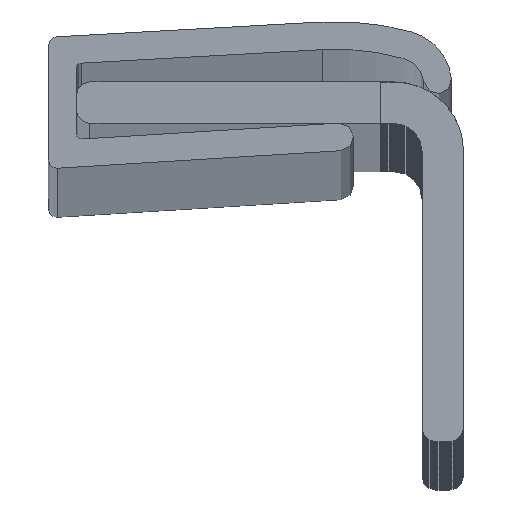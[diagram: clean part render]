
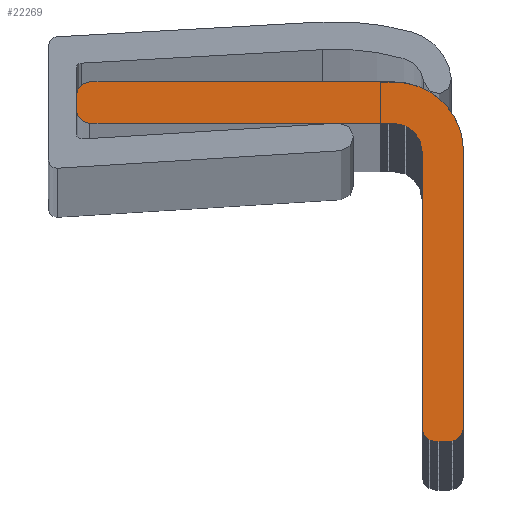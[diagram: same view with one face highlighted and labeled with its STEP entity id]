
A CAD part, top view. The second image highlights one B-rep face of the part: STEP entity #22269.
In plain terms, the highlighted planar face has unit normal (0, 0, 1).
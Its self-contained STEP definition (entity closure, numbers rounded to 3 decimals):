
#86 = CARTESIAN_POINT ( 'NONE',  ( 7.936, -12.342, 1008.4 ) ) ;
#106 = CARTESIAN_POINT ( 'NONE',  ( 7.436, -1.842, 1008.4 ) ) ;
#144 = DIRECTION ( 'NONE',  ( 0., 1., 0. ) ) ;
#145 = DIRECTION ( 'NONE',  ( 0., 0., 1. ) ) ;
#146 = CARTESIAN_POINT ( 'NONE',  ( 8.436, -11.842, 1008.4 ) ) ;
#147 = AXIS2_PLACEMENT_3D ( 'NONE', #146, #145, #144 ) ;
#148 = CIRCLE ( 'NONE', #147, 0.5 ) ;
#242 = DIRECTION ( 'NONE',  ( 0., 1., 0. ) ) ;
#243 = VECTOR ( 'NONE', #242, 1000. ) ;
#244 = CARTESIAN_POINT ( 'NONE',  ( 7.436, -1.842, 1008.4 ) ) ;
#245 = LINE ( 'NONE', #244, #243 ) ;
#264 = CARTESIAN_POINT ( 'NONE',  ( 7.436, -11.842, 1008.4 ) ) ;
#355 = CARTESIAN_POINT ( 'NONE',  ( -4.564, -0.342, 1008.4 ) ) ;
#389 = DIRECTION ( 'NONE',  ( -1., 0., 0. ) ) ;
#390 = DIRECTION ( 'NONE',  ( 0., 0., 1. ) ) ;
#391 = AXIS2_PLACEMENT_3D ( 'NONE', #355, #390, #389 ) ;
#392 = CIRCLE ( 'NONE', #391, 0.5 ) ;
#443 = DIRECTION ( 'NONE',  ( 0., 1., 0. ) ) ;
#444 = DIRECTION ( 'NONE',  ( 0., 0., 1. ) ) ;
#445 = CARTESIAN_POINT ( 'NONE',  ( 7.936, -11.842, 1008.4 ) ) ;
#446 = AXIS2_PLACEMENT_3D ( 'NONE', #445, #444, #443 ) ;
#499 = CIRCLE ( 'NONE', #446, 0.5 ) ;
#517 = EDGE_CURVE ( 'NONE', #23060, #533, #3198, .T. ) ;
#526 = EDGE_CURVE ( 'NONE', #753, #2992, #3173, .T. ) ;
#529 = EDGE_CURVE ( 'NONE', #532, #533, #3199, .T. ) ;
#532 = VERTEX_POINT ( 'NONE', #3230 ) ;
#533 = VERTEX_POINT ( 'NONE', #3229 ) ;
#551 = VERTEX_POINT ( 'NONE', #3248 ) ;
#617 = EDGE_CURVE ( 'NONE', #23162, #551, #3332, .T. ) ;
#618 = VERTEX_POINT ( 'NONE', #3373 ) ;
#621 = EDGE_CURVE ( 'NONE', #618, #551, #3418, .T. ) ;
#638 = EDGE_CURVE ( 'NONE', #532, #2979, #392, .T. ) ;
#641 = EDGE_CURVE ( 'NONE', #783, #744, #499, .T. ) ;
#730 = VERTEX_POINT ( 'NONE', #28847 ) ;
#732 = EDGE_CURVE ( 'NONE', #744, #730, #28845, .T. ) ;
#744 = VERTEX_POINT ( 'NONE', #86 ) ;
#753 = VERTEX_POINT ( 'NONE', #106 ) ;
#765 = EDGE_CURVE ( 'NONE', #730, #618, #148, .T. ) ;
#783 = VERTEX_POINT ( 'NONE', #264 ) ;
#788 = EDGE_CURVE ( 'NONE', #783, #753, #245, .T. ) ;
#2979 = VERTEX_POINT ( 'NONE', #18317 ) ;
#2992 = VERTEX_POINT ( 'NONE', #18270 ) ;
#2995 = EDGE_CURVE ( 'NONE', #2992, #2979, #18367, .T. ) ;
#3173 = CIRCLE ( 'NONE', #3204, 1. ) ;
#3180 = DIRECTION ( 'NONE',  ( -1., 0., 0. ) ) ;
#3181 = DIRECTION ( 'NONE',  ( 0., 0., 1. ) ) ;
#3182 = CARTESIAN_POINT ( 'NONE',  ( -4.564, 0.158, 1008.4 ) ) ;
#3197 = AXIS2_PLACEMENT_3D ( 'NONE', #3182, #3181, #3180 ) ;
#3198 = CIRCLE ( 'NONE', #3197, 0.5 ) ;
#3199 = LINE ( 'NONE', #3233, #3232 ) ;
#3201 = DIRECTION ( 'NONE',  ( 0., 1., 0. ) ) ;
#3202 = DIRECTION ( 'NONE',  ( 0., 0., 1. ) ) ;
#3203 = CARTESIAN_POINT ( 'NONE',  ( 6.436, -1.842, 1008.4 ) ) ;
#3204 = AXIS2_PLACEMENT_3D ( 'NONE', #3203, #3202, #3201 ) ;
#3229 = CARTESIAN_POINT ( 'NONE',  ( -5.064, 0.158, 1008.4 ) ) ;
#3230 = CARTESIAN_POINT ( 'NONE',  ( -5.064, -0.342, 1008.4 ) ) ;
#3231 = DIRECTION ( 'NONE',  ( 0., 1., 0. ) ) ;
#3232 = VECTOR ( 'NONE', #3231, 1000. ) ;
#3233 = CARTESIAN_POINT ( 'NONE',  ( -5.064, 0.658, 1008.4 ) ) ;
#3248 = CARTESIAN_POINT ( 'NONE',  ( 8.936, -1.842, 1008.4 ) ) ;
#3332 = CIRCLE ( 'NONE', #3377, 2.5 ) ;
#3373 = CARTESIAN_POINT ( 'NONE',  ( 8.936, -11.842, 1008.4 ) ) ;
#3374 = DIRECTION ( 'NONE',  ( 0., 1., 0. ) ) ;
#3375 = DIRECTION ( 'NONE',  ( 0., 0., -1. ) ) ;
#3376 = CARTESIAN_POINT ( 'NONE',  ( 6.436, -1.842, 1008.4 ) ) ;
#3377 = AXIS2_PLACEMENT_3D ( 'NONE', #3376, #3375, #3374 ) ;
#3415 = DIRECTION ( 'NONE',  ( 0., 1., 0. ) ) ;
#3416 = VECTOR ( 'NONE', #3415, 1000. ) ;
#3417 = CARTESIAN_POINT ( 'NONE',  ( 8.936, -7.084, 1008.4 ) ) ;
#3418 = LINE ( 'NONE', #3417, #3416 ) ;
#7558 = DIRECTION ( 'NONE',  ( 0., 1., 0. ) ) ;
#7559 = DIRECTION ( 'NONE',  ( 0., 0., -1. ) ) ;
#7560 = CARTESIAN_POINT ( 'NONE',  ( 5.936, -7.084, 1008.4 ) ) ;
#7561 = AXIS2_PLACEMENT_3D ( 'NONE', #7560, #7559, #7558 ) ;
#7562 = PLANE ( 'NONE',  #7561 ) ;
#7578 = FACE_OUTER_BOUND ( 'NONE', #22006, .T. ) ;
#10682 = CARTESIAN_POINT ( 'NONE',  ( -4.564, 0.658, 1008.4 ) ) ;
#10984 = CARTESIAN_POINT ( 'NONE',  ( 6.436, 0.658, 1008.4 ) ) ;
#11608 = DIRECTION ( 'NONE',  ( 1., 0., 0. ) ) ;
#11609 = VECTOR ( 'NONE', #11608, 1000. ) ;
#11610 = CARTESIAN_POINT ( 'NONE',  ( 5.936, 0.658, 1008.4 ) ) ;
#11611 = LINE ( 'NONE', #11610, #11609 ) ;
#18270 = CARTESIAN_POINT ( 'NONE',  ( 6.436, -0.842, 1008.4 ) ) ;
#18317 = CARTESIAN_POINT ( 'NONE',  ( -4.564, -0.842, 1008.4 ) ) ;
#18364 = DIRECTION ( 'NONE',  ( -1., 0., 0. ) ) ;
#18365 = VECTOR ( 'NONE', #18364, 1000. ) ;
#18366 = CARTESIAN_POINT ( 'NONE',  ( -5.064, -0.842, 1008.4 ) ) ;
#18367 = LINE ( 'NONE', #18366, #18365 ) ;
#22006 = EDGE_LOOP ( 'NONE', ( #22007, #22009, #22010, #22011, #22036, #22037, #22038, #22027, #22028, #22029, #22351, #22366 ) ) ;
#22007 = ORIENTED_EDGE ( 'NONE', *, *, #23205, .F. ) ;
#22009 = ORIENTED_EDGE ( 'NONE', *, *, #517, .T. ) ;
#22010 = ORIENTED_EDGE ( 'NONE', *, *, #529, .F. ) ;
#22011 = ORIENTED_EDGE ( 'NONE', *, *, #638, .T. ) ;
#22027 = ORIENTED_EDGE ( 'NONE', *, *, #641, .T. ) ;
#22028 = ORIENTED_EDGE ( 'NONE', *, *, #732, .T. ) ;
#22029 = ORIENTED_EDGE ( 'NONE', *, *, #765, .T. ) ;
#22036 = ORIENTED_EDGE ( 'NONE', *, *, #2995, .F. ) ;
#22037 = ORIENTED_EDGE ( 'NONE', *, *, #526, .F. ) ;
#22038 = ORIENTED_EDGE ( 'NONE', *, *, #788, .F. ) ;
#22269 = ADVANCED_FACE ( 'NONE', ( #7578 ), #7562, .F. ) ;
#22351 = ORIENTED_EDGE ( 'NONE', *, *, #621, .T. ) ;
#22366 = ORIENTED_EDGE ( 'NONE', *, *, #617, .F. ) ;
#23060 = VERTEX_POINT ( 'NONE', #10682 ) ;
#23162 = VERTEX_POINT ( 'NONE', #10984 ) ;
#23205 = EDGE_CURVE ( 'NONE', #23060, #23162, #11611, .T. ) ;
#28842 = DIRECTION ( 'NONE',  ( 1., 0., 0. ) ) ;
#28843 = VECTOR ( 'NONE', #28842, 1000. ) ;
#28844 = CARTESIAN_POINT ( 'NONE',  ( 5.936, -12.342, 1008.4 ) ) ;
#28845 = LINE ( 'NONE', #28844, #28843 ) ;
#28847 = CARTESIAN_POINT ( 'NONE',  ( 8.436, -12.342, 1008.4 ) ) ;
